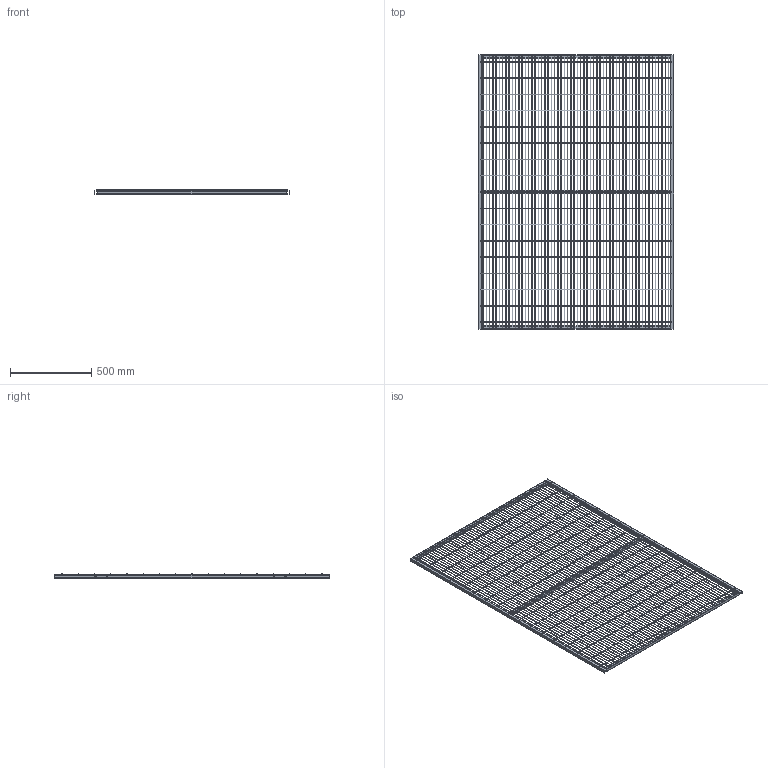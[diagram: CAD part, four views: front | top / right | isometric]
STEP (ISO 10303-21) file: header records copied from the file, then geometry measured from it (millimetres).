
FILE_DESCRIPTION (( 'STEP AP203' ), '1' );
FILE_NAME ('Door Panel 1200mm.STEP', '2023-11-28T22:35:44', ( '' ), ( '' ), 'SwSTEP 2.0', 'SolidWorks 2024', '' );
FILE_SCHEMA (( 'CONFIG_CONTROL_DESIGN' ));
Length unit declared in the file: millimetre
Products named in the file (1): Door Panel 1200mm
Bounding box: 1200 x 1688 x 26 mm (x, y, z)
Volume: 1567478.6 mm3; surface area: 2092712.7 mm2
Topology: 80 solids, 80 shells, 422 faces, 786 edges, 524 vertices
Faces by surface type: cylinder 222, plane 200
Entity records: 10697 total; most frequent: DIRECTION 2076, CARTESIAN_POINT 1733, ORIENTED_EDGE 1572, AXIS2_PLACEMENT_3D 867, EDGE_CURVE 786, VERTEX_POINT 524, EDGE_LOOP 464, CIRCLE 444
